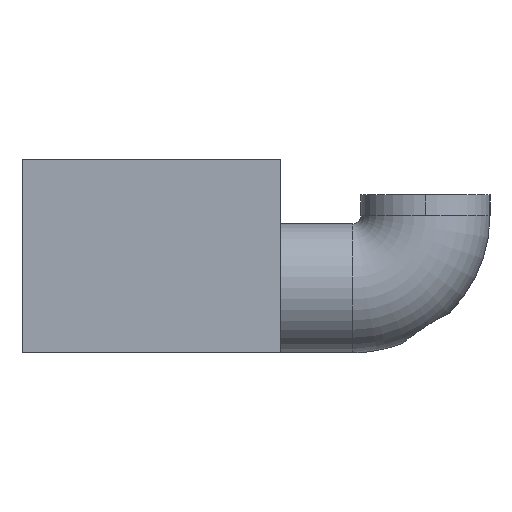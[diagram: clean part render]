
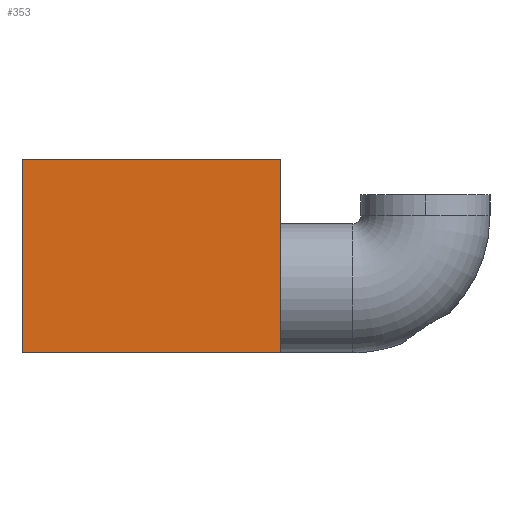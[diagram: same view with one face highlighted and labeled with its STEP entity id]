
A CAD part, left-side view. The second image highlights one B-rep face of the part: STEP entity #353.
In plain terms, the highlighted planar face has unit normal (-1, 0, 0).
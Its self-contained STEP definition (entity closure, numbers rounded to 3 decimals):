
#246 = CARTESIAN_POINT ( 'NONE',  ( -60., 8., 12. ) ) ;
#253 = PLANE ( 'NONE',  #966 ) ;
#255 = DIRECTION ( 'NONE',  ( 1., 0., 0. ) ) ;
#256 = DIRECTION ( 'NONE',  ( 0., 0., -1. ) ) ;
#353 = ADVANCED_FACE ( 'NONE', ( #882 ), #253, .F. ) ;
#445 = VERTEX_POINT ( 'NONE', #1337 ) ;
#451 = VERTEX_POINT ( 'NONE', #1343 ) ;
#452 = VERTEX_POINT ( 'NONE', #1344 ) ;
#454 = VERTEX_POINT ( 'NONE', #1346 ) ;
#512 = ORIENTED_EDGE ( 'NONE', *, *, #565, .T. ) ;
#513 = ORIENTED_EDGE ( 'NONE', *, *, #552, .F. ) ;
#514 = ORIENTED_EDGE ( 'NONE', *, *, #566, .F. ) ;
#515 = ORIENTED_EDGE ( 'NONE', *, *, #563, .T. ) ;
#552 = EDGE_CURVE ( 'NONE', #445, #452, #1103, .T. ) ;
#563 = EDGE_CURVE ( 'NONE', #454, #451, #1124, .T. ) ;
#565 = EDGE_CURVE ( 'NONE', #451, #452, #1128, .T. ) ;
#566 = EDGE_CURVE ( 'NONE', #454, #445, #1130, .T. ) ;
#753 = EDGE_LOOP ( 'NONE', ( #512, #513, #514, #515 ) ) ;
#882 = FACE_OUTER_BOUND ( 'NONE', #753, .T. ) ;
#966 = AXIS2_PLACEMENT_3D ( 'NONE', #246, #255, #256 ) ;
#1103 = LINE ( 'NONE', #1387, #1108 ) ;
#1108 = VECTOR ( 'NONE', #1397, 1000. ) ;
#1124 = LINE ( 'NONE', #1420, #1127 ) ;
#1127 = VECTOR ( 'NONE', #1421, 1000. ) ;
#1128 = LINE ( 'NONE', #1423, #1131 ) ;
#1130 = LINE ( 'NONE', #1425, #1133 ) ;
#1131 = VECTOR ( 'NONE', #1424, 1000. ) ;
#1133 = VECTOR ( 'NONE', #1426, 1000. ) ;
#1337 = CARTESIAN_POINT ( 'NONE',  ( -60., -8., 12. ) ) ;
#1343 = CARTESIAN_POINT ( 'NONE',  ( -60., 8., 0. ) ) ;
#1344 = CARTESIAN_POINT ( 'NONE',  ( -60., -8., 0. ) ) ;
#1346 = CARTESIAN_POINT ( 'NONE',  ( -60., 8., 12. ) ) ;
#1387 = CARTESIAN_POINT ( 'NONE',  ( -60., -8., 12. ) ) ;
#1397 = DIRECTION ( 'NONE',  ( 0., 0., -1. ) ) ;
#1420 = CARTESIAN_POINT ( 'NONE',  ( -60., 8., 12. ) ) ;
#1421 = DIRECTION ( 'NONE',  ( 0., 0., -1. ) ) ;
#1423 = CARTESIAN_POINT ( 'NONE',  ( -60., 8., 0. ) ) ;
#1424 = DIRECTION ( 'NONE',  ( 0., -1., 0. ) ) ;
#1425 = CARTESIAN_POINT ( 'NONE',  ( -60., 8., 12. ) ) ;
#1426 = DIRECTION ( 'NONE',  ( 0., -1., 0. ) ) ;
